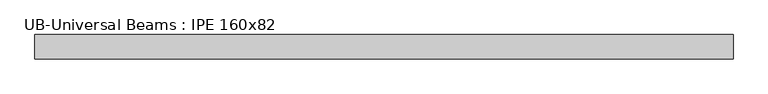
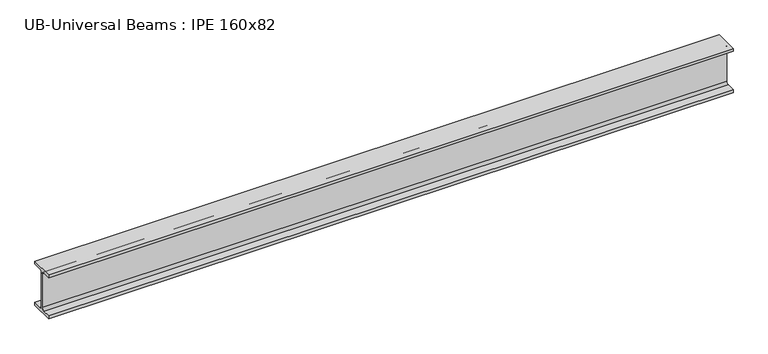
"""IFC4 building model written with IfcOpenShell, lengths in millimetres: beam geometry, UB-Universal Beams : IPE 160x82."""

from ifc_helpers import new_model, si_unit, point, frame, frame_2d, origin, place, context, project, spatial, polyline, circle_curve, trimmed, segment, composite_curve, outline, extrude, source, transform, mapped, element, save


def ub_universal_beams_ipe_160x82_39eb89cc(model_context):
    return source(origin(), model_context, "Body", "SweptSolid", [
        extrude(outline(composite_curve([segment(polyline([(41.0, -69.8), (41.0, -80.0), (-41.0, -80.0), (-41.0, -69.8), (-11.9, -69.8)]), True, "CONTINUOUS"), segment(trimmed(circle_curve(frame_2d((-11.9, -60.9)), 8.9), [point((-11.9, -69.8))], [point((-3.0, -60.9))], True, "CARTESIAN"), True, "CONTINUOUS"), segment(polyline([(-3.0, -60.9), (-3.0, 60.9)]), True, "CONTINUOUS"), segment(trimmed(circle_curve(frame_2d((-11.9, 60.9)), 8.9), [point((-3.0, 60.9))], [point((-11.9, 69.8))], True, "CARTESIAN"), True, "CONTINUOUS"), segment(polyline([(-11.9, 69.8), (-41.0, 69.8), (-41.0, 80.0), (41.0, 80.0), (41.0, 69.8), (11.9, 69.8)]), True, "CONTINUOUS"), segment(trimmed(circle_curve(frame_2d((11.9, 60.9)), 8.9), [point((11.9, 69.8))], [point((3.0, 60.9))], True, "CARTESIAN"), True, "CONTINUOUS"), segment(polyline([(3.0, 60.9), (3.0, -60.9)]), True, "CONTINUOUS"), segment(trimmed(circle_curve(frame_2d((11.9, -60.9)), 8.9), [point((3.0, -60.9))], [point((11.9, -69.8))], True, "CARTESIAN"), True, "CONTINUOUS"), segment(polyline([(11.9, -69.8), (41.0, -69.8)]), True, "CONTINUOUS")], self_intersect=False)), frame((-1094.65, 0.0, 0.0), z_axis=(1.0, 0.0, 0.0), x_axis=(0.0, 1.0, 0.0)), (0.0, 0.0, 1.0), 2352.0),
    ])


if __name__ == "__main__":
    model = new_model("IFC4")
    model_context = context("Model", 3, world=origin())
    ifc_project = project(units=[si_unit("LENGTHUNIT", "METRE", prefix="MILLI")], contexts=[model_context])
    site = spatial("IfcSite", under=ifc_project)
    building = spatial("IfcBuilding", under=site)
    placement = place(None, origin())
    ub_universal_beams_ipe_160x82_shape = ub_universal_beams_ipe_160x82_39eb89cc(model_context)
    element("IfcBeam", 1, ObjectType="UB-Universal Beams : IPE 160x82", at=placement, inside=building, context=model_context, shape_type="MappedRepresentation", body=[
        mapped(ub_universal_beams_ipe_160x82_shape, transform((0.0, 0.0, 0.0), x_axis=(1.0, 0.0, 0.0), y_axis=(0.0, 1.0, 0.0), z_axis=(0.0, 0.0, 1.0))),
    ])
    save(model, "model.ifc")
